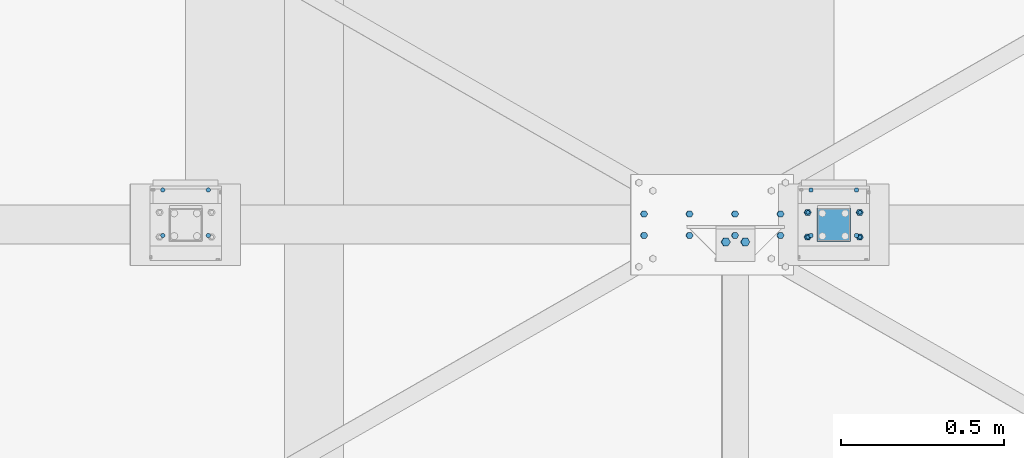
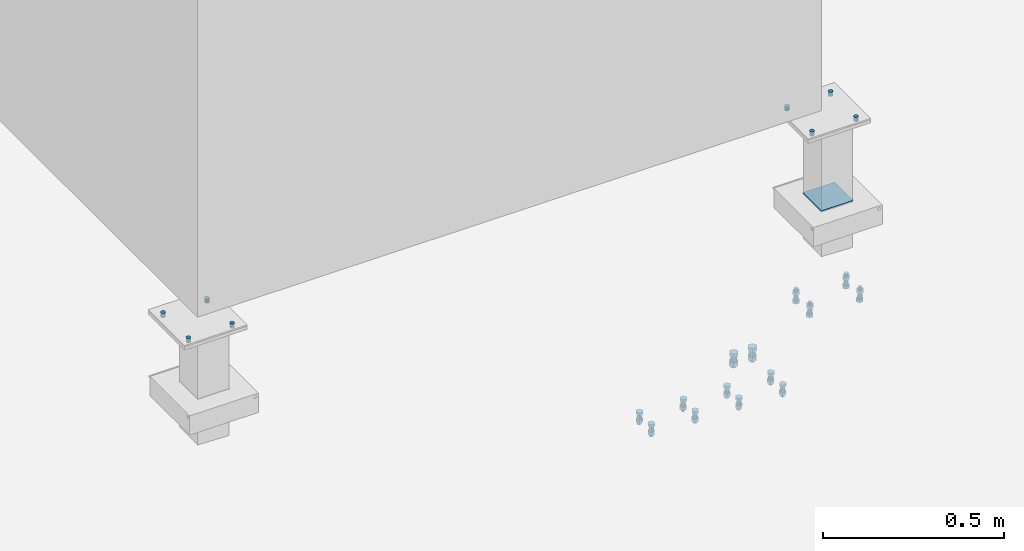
# One storey, part 362 of 3134: 6 mechanical fasteners, 4 elements without a shape of their own.
"""IFC2X3 building model written with IfcOpenShell, lengths in millimetres."""

from ifc_helpers import new_model, si_unit, frame, origin_with_axes, place, context, subcontext, project, spatial, faceted_brep, source, transform, mapped, material, type_object, element, aggregate, save


model = new_model("IFC2X3")

# Units and contexts
model_context = context("Model", 3, precision=1e-05, world=origin_with_axes())
body_context = subcontext(model_context, "Body", "Model", "MODEL_VIEW")
ifc_project = project(units=[si_unit("LENGTHUNIT", "METRE", prefix="MILLI"), si_unit("AREAUNIT", "SQUARE_METRE"), si_unit("VOLUMEUNIT", "CUBIC_METRE"), si_unit("MASSUNIT", "GRAM", prefix="KILO"), si_unit("TIMEUNIT", "SECOND"), si_unit("PLANEANGLEUNIT", "RADIAN"), si_unit("SOLIDANGLEUNIT", "STERADIAN"), si_unit("THERMODYNAMICTEMPERATUREUNIT", "DEGREE_CELSIUS"), si_unit("LUMINOUSINTENSITYUNIT", "LUMEN")], contexts=[model_context])

# Site, building, storey
site_placement = place(None, origin_with_axes())
site = spatial("IfcSite", under=ifc_project, at=site_placement, CompositionType="ELEMENT")
building_placement = place(site_placement, origin_with_axes())
building = spatial("IfcBuilding", under=site, at=building_placement, Name="Undefined", CompositionType="ELEMENT")
storey_placement = place(building_placement, origin_with_axes())
storey = spatial("IfcBuildingStorey", under=building, at=storey_placement, Name="Undefined", CompositionType="ELEMENT", Elevation=0.0)

# Assembly, mechanical fastener
assembly_1_placement = place(storey_placement, origin_with_axes())
assembly_1 = element("IfcElementAssembly", 1, at=assembly_1_placement, inside=storey, AssemblyPlace="NOTDEFINED", PredefinedType="RIGID_FRAME")
ifc_material_1 = material(Name="6.8")
mechanical_fastener_type = type_object("IfcMechanicalFastenerType", Name="Bolt assembly")
shared_shape_1 = source(origin_with_axes(), body_context, "Body", "Brep", [
    faceted_brep([(51.5, 1.36424205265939e-12, 50.0), (51.3858192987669, 1.36424205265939e-12, 50.5740251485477), (51.0606601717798, 1.36424205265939e-12, 51.0606601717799), (50.5740251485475, 1.36424205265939e-12, 51.385819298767), (-50.0000000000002, 1.36424205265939e-12, 51.5), (-50.7500000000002, 1.36424205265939e-12, 51.2990381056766), (-51.2990381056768, 1.36424205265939e-12, 50.7499999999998), (-51.5, 1.36424205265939e-12, 49.9999999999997), (-51.5, 1.36424205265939e-12, -50.0000000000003), (-51.2990381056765, 1.36424205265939e-12, -50.7500000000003), (-50.7499999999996, 1.36424205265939e-12, -51.2990381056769), (-49.9999999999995, 1.36424205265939e-12, -51.5), (50.0000000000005, 1.36424205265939e-12, -51.5), (50.7500000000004, 1.36424205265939e-12, -51.2990381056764), (51.2990381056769, 1.36424205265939e-12, -50.7499999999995), (51.5, 1.36424205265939e-12, -49.9999999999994), (51.5, 5.10000000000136, -49.9999999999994), (51.2990381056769, 5.10000000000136, -50.7499999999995), (50.7500000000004, 5.10000000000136, -51.2990381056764), (50.0000000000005, 5.10000000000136, -51.5), (-49.9999999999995, 5.10000000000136, -51.5), (-50.7499999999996, 5.10000000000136, -51.2990381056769), (-51.2990381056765, 5.10000000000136, -50.7500000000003), (-51.5, 5.10000000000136, -50.0000000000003), (-51.5, 5.10000000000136, 49.9999999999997), (-51.2990381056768, 5.10000000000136, 50.7499999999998), (-50.7500000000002, 5.10000000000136, 51.2990381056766), (-50.0000000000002, 5.10000000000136, 51.5), (50.5740251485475, 5.10000000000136, 51.385819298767), (51.0606601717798, 5.10000000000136, 51.0606601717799), (51.3858192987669, 5.10000000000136, 50.5740251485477), (51.5, 5.10000000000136, 50.0)], [[[0, 1, 2, 3, 4, 5, 6, 7, 8, 9, 10, 11, 12, 13, 14, 15]], [[16, 17, 18, 19, 20, 21, 22, 23, 24, 25, 26, 27, 28, 29, 30, 31]], [[0, 31, 30, 1]], [[1, 30, 29, 2]], [[2, 29, 28, 3]], [[3, 28, 27, 4]], [[4, 27, 26, 5]], [[5, 26, 25, 6]], [[6, 25, 24, 7]], [[7, 24, 23, 8]], [[8, 23, 22, 9]], [[9, 22, 21, 10]], [[10, 21, 20, 11]], [[11, 20, 19, 12]], [[12, 19, 18, 13]], [[13, 18, 17, 14]], [[14, 17, 16, 15]], [[15, 16, 31, 0]]]),
])
mechanical_fastener_1_placement = place(assembly_1_placement, frame((75824.0, 15633.33, 4212.39), z_axis=(0.0, -1.0, 0.0), x_axis=(-1.0, 0.0, 0.0)))
mechanical_fastener_1 = element("IfcMechanicalFastener", 2, at=mechanical_fastener_1_placement, type_object=mechanical_fastener_type, material=ifc_material_1, Name="Bolt assembly", NominalDiameter=10.0, NominalLength=5.0, context=body_context, shape_type="MappedRepresentation", body=[
    mapped(shared_shape_1, transform((0.0, 0.0, 0.0))),
])

assembly_2_placement = place(storey_placement, origin_with_axes())
assembly_2 = element("IfcElementAssembly", 3, at=assembly_2_placement, inside=storey, Name="IPE240", AssemblyPlace="NOTDEFINED", PredefinedType="RIGID_FRAME")
ifc_material_2 = material(Name="8.8")
shared_shape_2 = source(origin_with_axes(), body_context, "Body", "Brep", [
    faceted_brep([(13.856406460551, -15.0007639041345, 0.0), (6.92820323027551, -15.0007639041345, 12.0), (-6.92820323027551, -15.0007639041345, 12.0), (-13.856406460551, -15.0007639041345, 1.69692038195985e-15), (-6.92820323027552, -15.0007639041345, -12.0), (6.9282032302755, -15.0007639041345, -12.0), (6.9282032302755, -5.00076390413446, -12.0), (-6.92820323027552, -5.00076390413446, -12.0), (-13.856406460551, -5.00076390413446, 1.69692038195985e-15), (-6.92820323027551, -5.00076390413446, 12.0), (6.92820323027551, -5.00076390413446, 12.0), (13.856406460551, -5.00076390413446, 0.0), (8.0, -5.00076390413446, 0.0), (6.92820323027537, -5.00076390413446, 4.00000000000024), (3.99999999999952, -5.00076390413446, 6.92820323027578), (-8.29068785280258e-13, -5.00076390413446, 8.0), (-4.00000000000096, -5.00076390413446, 6.92820323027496), (-6.9282032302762, -5.00076390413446, 3.99999999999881), (-8.0, -5.00076390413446, -1.65813757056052e-12), (-6.92820323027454, -5.00076390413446, -4.00000000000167), (-3.99999999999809, -5.00076390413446, -6.92820323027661), (2.47832457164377e-12, -5.00076390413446, -8.0), (4.00000000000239, -5.00076390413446, -6.92820323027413), (6.92820323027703, -5.00076390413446, -3.99999999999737), (6.92820323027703, 34.9991996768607, -3.99999999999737), (4.00000000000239, 34.9991996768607, -6.92820323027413), (2.47832457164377e-12, 34.9991996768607, -8.0), (-3.99999999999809, 34.9991996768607, -6.92820323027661), (-6.92820323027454, 34.9991996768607, -4.00000000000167), (-8.0, 34.9991996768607, -1.65813757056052e-12), (-6.9282032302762, 34.9991996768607, 3.99999999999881), (-4.00000000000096, 34.9991996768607, 6.92820323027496), (-8.29068785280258e-13, 34.9991996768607, 8.0), (3.99999999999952, 34.9991996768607, 6.92820323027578), (6.92820323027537, 34.9991996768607, 4.00000000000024), (8.0, 34.9991996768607, 0.0), (13.856406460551, 14.9999995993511, 0.0), (6.92820323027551, 14.9999995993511, 12.0), (-6.92820323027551, 14.9999995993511, 12.0), (-13.856406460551, 14.9999995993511, 1.69692038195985e-15), (-6.92820323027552, 14.9999995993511, -12.0), (6.9282032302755, 14.9999995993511, -12.0), (6.9282032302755, 27.9999995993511, -12.0), (-6.92820323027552, 27.9999995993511, -12.0), (-13.856406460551, 27.9999995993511, 1.69692038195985e-15), (-6.92820323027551, 27.9999995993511, 12.0), (6.92820323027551, 27.9999995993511, 12.0), (13.856406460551, 27.9999995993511, 0.0)], [[[0, 1, 2, 3, 4, 5]], [[6, 7, 8, 9, 10, 11]], [[0, 11, 10, 1]], [[1, 10, 9, 2]], [[2, 9, 8, 3]], [[3, 8, 7, 4]], [[4, 7, 6, 5]], [[5, 6, 11, 0]], [[12, 13, 14, 15, 16, 17, 18, 19, 20, 21, 22, 23]], [[24, 25, 26, 27, 28, 29, 30, 31, 32, 33, 34, 35]], [[12, 35, 34, 13]], [[13, 34, 33, 14]], [[14, 33, 32, 15]], [[15, 32, 31, 16]], [[16, 31, 30, 17]], [[17, 30, 29, 18]], [[18, 29, 28, 19]], [[19, 28, 27, 20]], [[20, 27, 26, 21]], [[21, 26, 25, 22]], [[22, 25, 24, 23]], [[23, 24, 35, 12]], [[36, 37, 38, 39, 40, 41]], [[42, 43, 44, 45, 46, 47]], [[36, 47, 46, 37]], [[37, 46, 45, 38]], [[38, 45, 44, 39]], [[39, 44, 43, 40]], [[40, 43, 42, 41]], [[41, 42, 47, 36]]]),
    faceted_brep([(9.0, 4.90000583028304, 0.0), (7.79422863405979, 4.90000583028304, 4.50000000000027), (4.49999999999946, 4.90000583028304, 7.79422863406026), (-9.3270238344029e-13, 4.90000583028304, 9.0), (-4.50000000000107, 4.90000583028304, 7.79422863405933), (-7.79422863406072, 4.90000583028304, 4.49999999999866), (-9.0, 4.90000583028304, -1.86540476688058e-12), (-7.79422863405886, 4.90000583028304, -4.50000000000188), (-4.49999999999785, 4.90000583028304, -7.79422863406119), (2.78811514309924e-12, 4.90000583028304, -9.0), (4.50000000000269, 4.90000583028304, -7.7942286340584), (7.79422863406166, 4.90000583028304, -4.49999999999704), (7.79422863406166, 14.9999995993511, -4.49999999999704), (4.50000000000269, 14.9999995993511, -7.7942286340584), (2.78811514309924e-12, 14.9999995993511, -9.0), (-4.49999999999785, 14.9999995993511, -7.79422863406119), (-7.79422863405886, 14.9999995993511, -4.50000000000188), (-9.0, 14.9999995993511, -1.86540476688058e-12), (-7.79422863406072, 14.9999995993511, 4.49999999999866), (-4.50000000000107, 14.9999995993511, 7.79422863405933), (-9.3270238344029e-13, 14.9999995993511, 9.0), (4.49999999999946, 14.9999995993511, 7.79422863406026), (7.79422863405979, 14.9999995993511, 4.50000000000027), (9.0, 14.9999995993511, 0.0), (9.0, -4.90076390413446, 0.0), (7.79422863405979, -4.90076390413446, 4.50000000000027), (4.49999999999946, -4.90076390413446, 7.79422863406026), (-9.3270238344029e-13, -4.90076390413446, 9.0), (-4.50000000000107, -4.90076390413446, 7.79422863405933), (-7.79422863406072, -4.90076390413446, 4.49999999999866), (-9.0, -4.90076390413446, -1.86540476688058e-12), (-7.79422863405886, -4.90076390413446, -4.50000000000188), (-4.49999999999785, -4.90076390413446, -7.79422863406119), (2.78811514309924e-12, -4.90076390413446, -9.0), (4.50000000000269, -4.90076390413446, -7.7942286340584), (7.79422863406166, -4.90076390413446, -4.49999999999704), (7.79422863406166, 5.0992360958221, -4.49999999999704), (4.50000000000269, 5.0992360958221, -7.7942286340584), (2.78811514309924e-12, 5.0992360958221, -9.0), (-4.49999999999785, 5.0992360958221, -7.79422863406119), (-7.79422863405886, 5.0992360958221, -4.50000000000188), (-9.0, 5.0992360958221, -1.86540476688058e-12), (-7.79422863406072, 5.0992360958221, 4.49999999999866), (-4.50000000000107, 5.0992360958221, 7.79422863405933), (-9.3270238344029e-13, 5.0992360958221, 9.0), (4.49999999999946, 5.0992360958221, 7.79422863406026), (7.79422863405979, 5.0992360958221, 4.50000000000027), (9.0, 5.0992360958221, 0.0)], [[[0, 1, 2, 3, 4, 5, 6, 7, 8, 9, 10, 11]], [[12, 13, 14, 15, 16, 17, 18, 19, 20, 21, 22, 23]], [[0, 23, 22, 1]], [[1, 22, 21, 2]], [[2, 21, 20, 3]], [[3, 20, 19, 4]], [[4, 19, 18, 5]], [[5, 18, 17, 6]], [[6, 17, 16, 7]], [[7, 16, 15, 8]], [[8, 15, 14, 9]], [[9, 14, 13, 10]], [[10, 13, 12, 11]], [[11, 12, 23, 0]], [[24, 25, 26, 27, 28, 29, 30, 31, 32, 33, 34, 35]], [[36, 37, 38, 39, 40, 41, 42, 43, 44, 45, 46, 47]], [[24, 47, 46, 25]], [[25, 46, 45, 26]], [[26, 45, 44, 27]], [[27, 44, 43, 28]], [[28, 43, 42, 29]], [[29, 42, 41, 30]], [[30, 41, 40, 31]], [[31, 40, 39, 32]], [[32, 39, 38, 33]], [[33, 38, 37, 34]], [[34, 37, 36, 35]], [[35, 36, 47, 24]]]),
])
mechanical_fastener_2_placement = place(assembly_2_placement, frame((75491.7135017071, 15580.2408128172, 3820.99133895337), z_axis=(1.55835586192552e-05, 0.999999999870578, -3.99949066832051e-06), x_axis=(0.999519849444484, -1.57000007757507e-05, -0.0309850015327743)))
mechanical_fastener_2 = element("IfcMechanicalFastener", 4, at=mechanical_fastener_2_placement, type_object=mechanical_fastener_type, material=ifc_material_2, Name="Bolt assembly", NominalDiameter=16.0, NominalLength=40.0, context=body_context, shape_type="MappedRepresentation", body=[
    mapped(shared_shape_2, transform((0.0, 0.0, 0.0))),
    mapped(shared_shape_2, transform((59.9999999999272, 0.0, 5.40239852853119e-10))),
])

assembly_3_placement = place(storey_placement, origin_with_axes())
assembly_3 = element("IfcElementAssembly", 5, at=assembly_3_placement, inside=storey, AssemblyPlace="NOTDEFINED", PredefinedType="RIGID_FRAME")
shared_shape_3 = source(origin_with_axes(), body_context, "Body", "Brep", [
    faceted_brep([(7.0, -4.90000000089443, 0.0), (6.06217782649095, -4.90000000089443, 3.50000000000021), (3.49999999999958, -4.90000000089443, 6.06217782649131), (-7.25435187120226e-13, -4.90000000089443, 7.0), (-3.50000000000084, -4.90000000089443, 6.06217782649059), (-6.06217782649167, -4.90000000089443, 3.49999999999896), (-7.0, -4.90000000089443, -1.45087037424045e-12), (-6.06217782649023, -4.90000000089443, -3.50000000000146), (-3.49999999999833, -4.90000000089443, -6.06217782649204), (2.1685340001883e-12, -4.90000000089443, -7.0), (3.50000000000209, -4.90000000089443, -6.06217782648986), (6.0621778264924, -4.90000000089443, -3.4999999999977), (6.0621778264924, 0.0999999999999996, -3.4999999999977), (3.50000000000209, 0.0999999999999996, -6.06217782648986), (2.1685340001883e-12, 0.0999999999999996, -7.0), (-3.49999999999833, 0.0999999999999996, -6.06217782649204), (-6.06217782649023, 0.0999999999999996, -3.50000000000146), (-7.0, 0.0999999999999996, -1.45087037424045e-12), (-6.06217782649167, 0.0999999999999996, 3.49999999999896), (-3.50000000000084, 0.0999999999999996, 6.06217782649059), (-7.25435187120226e-13, 0.0999999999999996, 7.0), (3.49999999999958, 0.0999999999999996, 6.06217782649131), (6.06217782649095, 0.0999999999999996, 3.50000000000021), (7.0, 0.0999999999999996, 0.0), (7.0, -0.1, 0.0), (6.06217782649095, -0.1, 3.50000000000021), (3.49999999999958, -0.1, 6.06217782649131), (-7.25435187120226e-13, -0.1, 7.0), (-3.50000000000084, -0.1, 6.06217782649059), (-6.06217782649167, -0.1, 3.49999999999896), (-7.0, -0.1, -1.45087037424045e-12), (-6.06217782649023, -0.1, -3.50000000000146), (-3.49999999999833, -0.1, -6.06217782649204), (2.1685340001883e-12, -0.1, -7.0), (3.50000000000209, -0.1, -6.06217782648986), (6.0621778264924, -0.1, -3.4999999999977), (6.0621778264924, 10.0, -3.4999999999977), (3.50000000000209, 10.0, -6.06217782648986), (2.1685340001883e-12, 10.0, -7.0), (-3.49999999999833, 10.0, -6.06217782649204), (-6.06217782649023, 10.0, -3.50000000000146), (-7.0, 10.0, -1.45087037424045e-12), (-6.06217782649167, 10.0, 3.49999999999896), (-3.50000000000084, 10.0, 6.06217782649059), (-7.25435187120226e-13, 10.0, 7.0), (3.49999999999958, 10.0, 6.06217782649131), (6.06217782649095, 10.0, 3.50000000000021), (7.0, 10.0, 0.0)], [[[0, 1, 2, 3, 4, 5, 6, 7, 8, 9, 10, 11]], [[12, 13, 14, 15, 16, 17, 18, 19, 20, 21, 22, 23]], [[0, 23, 22, 1]], [[1, 22, 21, 2]], [[2, 21, 20, 3]], [[3, 20, 19, 4]], [[4, 19, 18, 5]], [[5, 18, 17, 6]], [[6, 17, 16, 7]], [[7, 16, 15, 8]], [[8, 15, 14, 9]], [[9, 14, 13, 10]], [[10, 13, 12, 11]], [[11, 12, 23, 0]], [[24, 25, 26, 27, 28, 29, 30, 31, 32, 33, 34, 35]], [[36, 37, 38, 39, 40, 41, 42, 43, 44, 45, 46, 47]], [[24, 47, 46, 25]], [[25, 46, 45, 26]], [[26, 45, 44, 27]], [[27, 44, 43, 28]], [[28, 43, 42, 29]], [[29, 42, 41, 30]], [[30, 41, 40, 31]], [[31, 40, 39, 32]], [[32, 39, 38, 33]], [[33, 38, 37, 34]], [[34, 37, 36, 35]], [[35, 36, 47, 24]]]),
])
mechanical_fastener_3_placement = place(assembly_3_placement, frame((73830.0, 15600.17, 4475.0), z_axis=(-1.0, 0.0, 0.0), x_axis=(0.0, 1.0, 0.0)))
mechanical_fastener_3 = element("IfcMechanicalFastener", 6, at=mechanical_fastener_3_placement, type_object=mechanical_fastener_type, material=ifc_material_2, Name="Bolt assembly", NominalDiameter=12.0, NominalLength=15.0, context=body_context, shape_type="MappedRepresentation", body=[
    mapped(shared_shape_3, transform((0.0, 0.0, -70.0))),
    mapped(shared_shape_3, transform((140.0, 0.0, -70.0))),
    mapped(shared_shape_3, transform((0.0, 0.0, 70.0))),
    mapped(shared_shape_3, transform((140.0, 0.0, 70.0))),
])
aggregate(assembly_3, [mechanical_fastener_3])

# Mechanical fastener
mechanical_fastener_4_placement = place(assembly_1_placement, frame((75824.0, 15600.17, 4475.0), z_axis=(-1.0, 0.0, 0.0), x_axis=(0.0, 1.0, 0.0)))
mechanical_fastener_4 = element("IfcMechanicalFastener", 7, at=mechanical_fastener_4_placement, type_object=mechanical_fastener_type, material=ifc_material_2, Name="Bolt assembly", NominalDiameter=12.0, NominalLength=15.0, context=body_context, shape_type="MappedRepresentation", body=[
    mapped(shared_shape_3, transform((0.0, 0.0, -70.0))),
    mapped(shared_shape_3, transform((140.0, 0.0, -70.0))),
    mapped(shared_shape_3, transform((0.0, 0.0, 70.0))),
    mapped(shared_shape_3, transform((140.0, 0.0, 70.0))),
])

aggregate(assembly_1, [mechanical_fastener_1, mechanical_fastener_4])

# Assembly, mechanical fastener
assembly_4_placement = place(storey_placement, origin_with_axes())
assembly_4 = element("IfcElementAssembly", 8, at=assembly_4_placement, inside=storey, AssemblyPlace="NOTDEFINED", PredefinedType="RIGID_FRAME")
shared_shape_4 = source(origin_with_axes(), body_context, "Body", "Brep", [
    faceted_brep([(10.9696551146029, -29.8300001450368, 0.0), (5.48482755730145, -29.8300001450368, 9.5), (-5.48482755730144, -29.8300001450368, 9.5), (-10.9696551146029, -29.8300001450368, 1.34339530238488e-15), (-5.48482755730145, -29.8300001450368, -9.5), (5.48482755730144, -29.8300001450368, -9.50000000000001), (5.48482755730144, -21.8300001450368, -9.50000000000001), (-5.48482755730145, -21.8300001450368, -9.5), (-10.9696551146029, -21.8300001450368, 1.34339530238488e-15), (-5.48482755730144, -21.8300001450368, 9.5), (5.48482755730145, -21.8300001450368, 9.5), (10.9696551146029, -21.8300001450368, 0.0), (6.0, -21.8300001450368, 0.0), (5.19615242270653, -21.8300001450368, 3.00000000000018), (2.99999999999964, -21.8300001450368, 5.19615242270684), (-6.21801588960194e-13, -21.8300001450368, 6.0), (-3.00000000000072, -21.8300001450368, 5.19615242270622), (-5.19615242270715, -21.8300001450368, 2.9999999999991), (-6.0, -21.8300001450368, -1.24360317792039e-12), (-5.19615242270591, -21.8300001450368, -3.00000000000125), (-2.99999999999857, -21.8300001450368, -5.19615242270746), (1.85874342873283e-12, -21.8300001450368, -6.0), (3.00000000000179, -21.8300001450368, -5.1961524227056), (5.19615242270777, -21.8300001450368, -2.99999999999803), (5.19615242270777, 18.1699998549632, -2.99999999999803), (3.00000000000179, 18.1699998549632, -5.1961524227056), (1.85874342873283e-12, 18.1699998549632, -6.0), (-2.99999999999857, 18.1699998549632, -5.19615242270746), (-5.19615242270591, 18.1699998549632, -3.00000000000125), (-6.0, 18.1699998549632, -1.24360317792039e-12), (-5.19615242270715, 18.1699998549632, 2.9999999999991), (-3.00000000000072, 18.1699998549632, 5.19615242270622), (-6.21801588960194e-13, 18.1699998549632, 6.0), (2.99999999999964, 18.1699998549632, 5.19615242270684), (5.19615242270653, 18.1699998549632, 3.00000000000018), (6.0, 18.1699998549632, 0.0), (10.9696551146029, 0.0, 0.0), (5.48482755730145, 0.0, 9.5), (-5.48482755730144, 0.0, 9.5), (-10.9696551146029, 0.0, 1.34339530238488e-15), (-5.48482755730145, 0.0, -9.5), (5.48482755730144, 0.0, -9.50000000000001), (5.48482755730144, 10.0, -9.50000000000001), (-5.48482755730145, 10.0, -9.5), (-10.9696551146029, 10.0, 1.34339530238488e-15), (-5.48482755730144, 10.0, 9.5), (5.48482755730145, 10.0, 9.5), (10.9696551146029, 10.0, 0.0)], [[[0, 1, 2, 3, 4, 5]], [[6, 7, 8, 9, 10, 11]], [[0, 11, 10, 1]], [[1, 10, 9, 2]], [[2, 9, 8, 3]], [[3, 8, 7, 4]], [[4, 7, 6, 5]], [[5, 6, 11, 0]], [[12, 13, 14, 15, 16, 17, 18, 19, 20, 21, 22, 23]], [[24, 25, 26, 27, 28, 29, 30, 31, 32, 33, 34, 35]], [[12, 35, 34, 13]], [[13, 34, 33, 14]], [[14, 33, 32, 15]], [[15, 32, 31, 16]], [[16, 31, 30, 17]], [[17, 30, 29, 18]], [[18, 29, 28, 19]], [[19, 28, 27, 20]], [[20, 27, 26, 21]], [[21, 26, 25, 22]], [[22, 25, 24, 23]], [[23, 24, 35, 12]], [[36, 37, 38, 39, 40, 41]], [[42, 43, 44, 45, 46, 47]], [[36, 47, 46, 37]], [[37, 46, 45, 38]], [[38, 45, 44, 39]], [[39, 44, 43, 40]], [[40, 43, 42, 41]], [[41, 42, 47, 36]]]),
    faceted_brep([(7.0, -10.0999999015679, 0.0), (6.06217782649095, -10.0999999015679, 3.50000000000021), (3.49999999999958, -10.0999999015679, 6.06217782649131), (-7.25435187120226e-13, -10.0999999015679, 7.0), (-3.50000000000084, -10.0999999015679, 6.06217782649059), (-6.06217782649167, -10.0999999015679, 3.49999999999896), (-7.0, -10.0999999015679, -1.45087037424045e-12), (-6.06217782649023, -10.0999999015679, -3.50000000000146), (-3.49999999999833, -10.0999999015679, -6.06217782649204), (2.1685340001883e-12, -10.0999999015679, -7.0), (3.50000000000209, -10.0999999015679, -6.06217782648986), (6.0621778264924, -10.0999999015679, -3.4999999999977), (6.0621778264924, 0.0, -3.4999999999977), (3.50000000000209, 0.0, -6.06217782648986), (2.1685340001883e-12, 0.0, -7.0), (-3.49999999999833, 0.0, -6.06217782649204), (-6.06217782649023, 0.0, -3.50000000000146), (-7.0, 0.0, -1.45087037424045e-12), (-6.06217782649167, 0.0, 3.49999999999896), (-3.50000000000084, 0.0, 6.06217782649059), (-7.25435187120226e-13, 0.0, 7.0), (3.49999999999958, 0.0, 6.06217782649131), (6.06217782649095, 0.0, 3.50000000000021), (7.0, 0.0, 0.0), (7.0, -11.9999999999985, 0.0), (6.06217782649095, -11.9999999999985, 3.50000000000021), (3.49999999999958, -11.9999999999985, 6.06217782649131), (-7.25435187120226e-13, -11.9999999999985, 7.0), (-3.50000000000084, -11.9999999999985, 6.06217782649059), (-6.06217782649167, -11.9999999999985, 3.49999999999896), (-7.0, -11.9999999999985, -1.45087037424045e-12), (-6.06217782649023, -11.9999999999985, -3.50000000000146), (-3.49999999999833, -11.9999999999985, -6.06217782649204), (2.1685340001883e-12, -11.9999999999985, -7.0), (3.50000000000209, -11.9999999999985, -6.06217782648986), (6.0621778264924, -11.9999999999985, -3.4999999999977), (6.0621778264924, -10.0, -3.4999999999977), (3.50000000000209, -10.0, -6.06217782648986), (2.1685340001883e-12, -10.0, -7.0), (-3.49999999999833, -10.0, -6.06217782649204), (-6.06217782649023, -10.0, -3.50000000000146), (-7.0, -10.0, -1.45087037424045e-12), (-6.06217782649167, -10.0, 3.49999999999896), (-3.50000000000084, -10.0, 6.06217782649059), (-7.25435187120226e-13, -10.0, 7.0), (3.49999999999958, -10.0, 6.06217782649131), (6.06217782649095, -10.0, 3.50000000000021), (7.0, -10.0, 0.0), (7.0, -21.7300001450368, 0.0), (6.06217782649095, -21.7300001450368, 3.50000000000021), (3.49999999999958, -21.7300001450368, 6.06217782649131), (-7.25435187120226e-13, -21.7300001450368, 7.0), (-3.50000000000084, -21.7300001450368, 6.06217782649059), (-6.06217782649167, -21.7300001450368, 3.49999999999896), (-7.0, -21.7300001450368, -1.45087037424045e-12), (-6.06217782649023, -21.7300001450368, -3.50000000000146), (-3.49999999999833, -21.7300001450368, -6.06217782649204), (2.1685340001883e-12, -21.7300001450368, -7.0), (3.50000000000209, -21.7300001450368, -6.06217782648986), (6.0621778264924, -21.7300001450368, -3.4999999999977), (6.0621778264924, -11.9299999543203, -3.4999999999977), (3.50000000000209, -11.9299999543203, -6.06217782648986), (2.1685340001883e-12, -11.9299999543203, -7.0), (-3.49999999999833, -11.9299999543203, -6.06217782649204), (-6.06217782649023, -11.9299999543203, -3.50000000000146), (-7.0, -11.9299999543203, -1.45087037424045e-12), (-6.06217782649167, -11.9299999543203, 3.49999999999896), (-3.50000000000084, -11.9299999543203, 6.06217782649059), (-7.25435187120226e-13, -11.9299999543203, 7.0), (3.49999999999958, -11.9299999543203, 6.06217782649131), (6.06217782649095, -11.9299999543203, 3.50000000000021), (7.0, -11.9299999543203, 0.0)], [[[0, 1, 2, 3, 4, 5, 6, 7, 8, 9, 10, 11]], [[12, 13, 14, 15, 16, 17, 18, 19, 20, 21, 22, 23]], [[0, 23, 22, 1]], [[1, 22, 21, 2]], [[2, 21, 20, 3]], [[3, 20, 19, 4]], [[4, 19, 18, 5]], [[5, 18, 17, 6]], [[6, 17, 16, 7]], [[7, 16, 15, 8]], [[8, 15, 14, 9]], [[9, 14, 13, 10]], [[10, 13, 12, 11]], [[11, 12, 23, 0]], [[24, 25, 26, 27, 28, 29, 30, 31, 32, 33, 34, 35]], [[36, 37, 38, 39, 40, 41, 42, 43, 44, 45, 46, 47]], [[24, 47, 46, 25]], [[25, 46, 45, 26]], [[26, 45, 44, 27]], [[27, 44, 43, 28]], [[28, 43, 42, 29]], [[29, 42, 41, 30]], [[30, 41, 40, 31]], [[31, 40, 39, 32]], [[32, 39, 38, 33]], [[33, 38, 37, 34]], [[34, 37, 36, 35]], [[35, 36, 47, 24]], [[48, 49, 50, 51, 52, 53, 54, 55, 56, 57, 58, 59]], [[60, 61, 62, 63, 64, 65, 66, 67, 68, 69, 70, 71]], [[48, 71, 70, 49]], [[49, 70, 69, 50]], [[50, 69, 68, 51]], [[51, 68, 67, 52]], [[52, 67, 66, 53]], [[53, 66, 65, 54]], [[54, 65, 64, 55]], [[55, 64, 63, 56]], [[56, 63, 62, 57]], [[57, 62, 61, 58]], [[58, 61, 60, 59]], [[59, 60, 71, 48]]]),
])
mechanical_fastener_5_placement = place(assembly_4_placement, frame((75744.0414547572, 15633.33, 3890.23554817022), z_axis=(0.0, -1.0, 0.0), x_axis=(0.999519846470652, 0.0, -0.0309851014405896)))
mechanical_fastener_5 = element("IfcMechanicalFastener", 9, at=mechanical_fastener_5_placement, type_object=mechanical_fastener_type, material=ifc_material_2, Name="Bolt assembly", NominalDiameter=12.0, NominalLength=40.0, context=body_context, shape_type="MappedRepresentation", body=[
    mapped(shared_shape_4, transform((0.0, 0.0, -38.0))),
    mapped(shared_shape_4, transform((159.99999999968, -2.71938915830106e-10, -38.0))),
    mapped(shared_shape_4, transform((0.0, 0.0, 38.0))),
    mapped(shared_shape_4, transform((159.99999999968, -2.71938915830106e-10, 38.0))),
])
aggregate(assembly_4, [mechanical_fastener_5])

# Mechanical fastener
shared_shape_5 = source(origin_with_axes(), body_context, "Body", "Brep", [
    faceted_brep([(10.9696551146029, -17.8000021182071, 0.0), (5.48482755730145, -17.8000021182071, 9.5), (-5.48482755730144, -17.8000021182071, 9.5), (-10.9696551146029, -17.8000021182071, 1.34339530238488e-15), (-5.48482755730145, -17.8000021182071, -9.5), (5.48482755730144, -17.8000021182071, -9.50000000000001), (5.48482755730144, -9.80000211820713, -9.50000000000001), (-5.48482755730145, -9.80000211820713, -9.5), (-10.9696551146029, -9.80000211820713, 1.34339530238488e-15), (-5.48482755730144, -9.80000211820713, 9.5), (5.48482755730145, -9.80000211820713, 9.5), (10.9696551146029, -9.80000211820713, 0.0), (6.0, -9.80000211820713, 0.0), (5.19615242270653, -9.80000211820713, 3.00000000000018), (2.99999999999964, -9.80000211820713, 5.19615242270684), (-6.21801588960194e-13, -9.80000211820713, 6.0), (-3.00000000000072, -9.80000211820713, 5.19615242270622), (-5.19615242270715, -9.80000211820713, 2.9999999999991), (-6.0, -9.80000211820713, -1.24360317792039e-12), (-5.19615242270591, -9.80000211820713, -3.00000000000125), (-2.99999999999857, -9.80000211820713, -5.19615242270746), (1.85874342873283e-12, -9.80000211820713, -6.0), (3.00000000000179, -9.80000211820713, -5.1961524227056), (5.19615242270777, -9.80000211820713, -2.99999999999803), (5.19615242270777, 25.1999978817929, -2.99999999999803), (3.00000000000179, 25.1999978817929, -5.1961524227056), (1.85874342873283e-12, 25.1999978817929, -6.0), (-2.99999999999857, 25.1999978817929, -5.19615242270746), (-5.19615242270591, 25.1999978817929, -3.00000000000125), (-6.0, 25.1999978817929, -1.24360317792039e-12), (-5.19615242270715, 25.1999978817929, 2.9999999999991), (-3.00000000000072, 25.1999978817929, 5.19615242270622), (-6.21801588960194e-13, 25.1999978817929, 6.0), (2.99999999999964, 25.1999978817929, 5.19615242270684), (5.19615242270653, 25.1999978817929, 3.00000000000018), (6.0, 25.1999978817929, 0.0), (10.9696551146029, 8.0, 0.0), (5.48482755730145, 8.0, 9.5), (-5.48482755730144, 8.0, 9.5), (-10.9696551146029, 8.0, 1.34339530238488e-15), (-5.48482755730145, 8.0, -9.5), (5.48482755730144, 8.0, -9.50000000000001), (5.48482755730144, 18.0, -9.50000000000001), (-5.48482755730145, 18.0, -9.5), (-10.9696551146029, 18.0, 1.34339530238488e-15), (-5.48482755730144, 18.0, 9.5), (5.48482755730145, 18.0, 9.5), (10.9696551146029, 18.0, 0.0)], [[[0, 1, 2, 3, 4, 5]], [[6, 7, 8, 9, 10, 11]], [[0, 11, 10, 1]], [[1, 10, 9, 2]], [[2, 9, 8, 3]], [[3, 8, 7, 4]], [[4, 7, 6, 5]], [[5, 6, 11, 0]], [[12, 13, 14, 15, 16, 17, 18, 19, 20, 21, 22, 23]], [[24, 25, 26, 27, 28, 29, 30, 31, 32, 33, 34, 35]], [[12, 35, 34, 13]], [[13, 34, 33, 14]], [[14, 33, 32, 15]], [[15, 32, 31, 16]], [[16, 31, 30, 17]], [[17, 30, 29, 18]], [[18, 29, 28, 19]], [[19, 28, 27, 20]], [[20, 27, 26, 21]], [[21, 26, 25, 22]], [[22, 25, 24, 23]], [[23, 24, 35, 12]], [[36, 37, 38, 39, 40, 41]], [[42, 43, 44, 45, 46, 47]], [[36, 47, 46, 37]], [[37, 46, 45, 38]], [[38, 45, 44, 39]], [[39, 44, 43, 40]], [[40, 43, 42, 41]], [[41, 42, 47, 36]]]),
    faceted_brep([(7.0, -0.1, 0.0), (6.06217782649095, -0.1, 3.50000000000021), (3.49999999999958, -0.1, 6.06217782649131), (-7.25435187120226e-13, -0.1, 7.0), (-3.50000000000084, -0.1, 6.06217782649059), (-6.06217782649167, -0.1, 3.49999999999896), (-7.0, -0.1, -1.45087037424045e-12), (-6.06217782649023, -0.1, -3.50000000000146), (-3.49999999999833, -0.1, -6.06217782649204), (2.1685340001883e-12, -0.1, -7.0), (3.50000000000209, -0.1, -6.06217782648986), (6.0621778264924, -0.1, -3.4999999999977), (6.0621778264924, 8.0000000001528, -3.4999999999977), (3.50000000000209, 8.0000000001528, -6.06217782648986), (2.1685340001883e-12, 8.0000000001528, -7.0), (-3.49999999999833, 8.0000000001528, -6.06217782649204), (-6.06217782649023, 8.0000000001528, -3.50000000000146), (-7.0, 8.0000000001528, -1.45087037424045e-12), (-6.06217782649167, 8.0000000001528, 3.49999999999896), (-3.50000000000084, 8.0000000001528, 6.06217782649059), (-7.25435187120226e-13, 8.0000000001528, 7.0), (3.49999999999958, 8.0000000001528, 6.06217782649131), (6.06217782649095, 8.0000000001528, 3.50000000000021), (7.0, 8.0000000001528, 0.0), (7.0, -9.70000211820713, 0.0), (6.06217782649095, -9.70000211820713, 3.50000000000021), (3.49999999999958, -9.70000211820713, 6.06217782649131), (-7.25435187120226e-13, -9.70000211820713, 7.0), (-3.50000000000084, -9.70000211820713, 6.06217782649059), (-6.06217782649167, -9.70000211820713, 3.49999999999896), (-7.0, -9.70000211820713, -1.45087037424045e-12), (-6.06217782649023, -9.70000211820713, -3.50000000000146), (-3.49999999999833, -9.70000211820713, -6.06217782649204), (2.1685340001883e-12, -9.70000211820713, -7.0), (3.50000000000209, -9.70000211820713, -6.06217782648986), (6.0621778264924, -9.70000211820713, -3.4999999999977), (6.0621778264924, 0.0999999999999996, -3.4999999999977), (3.50000000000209, 0.0999999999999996, -6.06217782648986), (2.1685340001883e-12, 0.0999999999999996, -7.0), (-3.49999999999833, 0.0999999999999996, -6.06217782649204), (-6.06217782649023, 0.0999999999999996, -3.50000000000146), (-7.0, 0.0999999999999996, -1.45087037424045e-12), (-6.06217782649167, 0.0999999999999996, 3.49999999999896), (-3.50000000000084, 0.0999999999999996, 6.06217782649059), (-7.25435187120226e-13, 0.0999999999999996, 7.0), (3.49999999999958, 0.0999999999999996, 6.06217782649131), (6.06217782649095, 0.0999999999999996, 3.50000000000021), (7.0, 0.0999999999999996, 0.0)], [[[0, 1, 2, 3, 4, 5, 6, 7, 8, 9, 10, 11]], [[12, 13, 14, 15, 16, 17, 18, 19, 20, 21, 22, 23]], [[0, 23, 22, 1]], [[1, 22, 21, 2]], [[2, 21, 20, 3]], [[3, 20, 19, 4]], [[4, 19, 18, 5]], [[5, 18, 17, 6]], [[6, 17, 16, 7]], [[7, 16, 15, 8]], [[8, 15, 14, 9]], [[9, 14, 13, 10]], [[10, 13, 12, 11]], [[11, 12, 23, 0]], [[24, 25, 26, 27, 28, 29, 30, 31, 32, 33, 34, 35]], [[36, 37, 38, 39, 40, 41, 42, 43, 44, 45, 46, 47]], [[24, 47, 46, 25]], [[25, 46, 45, 26]], [[26, 45, 44, 27]], [[27, 44, 43, 28]], [[28, 43, 42, 29]], [[29, 42, 41, 30]], [[30, 41, 40, 31]], [[31, 40, 39, 32]], [[32, 39, 38, 33]], [[33, 38, 37, 34]], [[34, 37, 36, 35]], [[35, 36, 47, 24]]]),
])
mechanical_fastener_6_placement = place(assembly_2_placement, frame((75659.9727494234, 15633.3274358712, 3640.69060574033), z_axis=(-5.10000051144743e-06, -0.999999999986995, 0.0), x_axis=(-0.999519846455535, 5.50000025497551e-06, 0.0309851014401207)))
mechanical_fastener_6 = element("IfcMechanicalFastener", 10, at=mechanical_fastener_6_placement, type_object=mechanical_fastener_type, material=ifc_material_2, Name="Bolt assembly", NominalDiameter=12.0, NominalLength=35.0, context=body_context, shape_type="MappedRepresentation", body=[
    mapped(shared_shape_5, transform((0.0, 0.0, -33.0))),
    mapped(shared_shape_5, transform((140.000000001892, -1.64072844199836e-09, -32.9999999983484))),
    mapped(shared_shape_5, transform((280.000000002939, -3.56703822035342e-09, -32.9999999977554))),
    mapped(shared_shape_5, transform((420.000000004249, -5.35692379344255e-09, -32.9999999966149))),
    mapped(shared_shape_5, transform((0.0, 0.0, 33.0))),
    mapped(shared_shape_5, transform((140.000000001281, -1.73167791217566e-09, 33.0000000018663))),
    mapped(shared_shape_5, transform((280.000000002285, -3.59614205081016e-09, 33.0000000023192))),
    mapped(shared_shape_5, transform((420.000000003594, -5.38784661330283e-09, 33.0000000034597))),
])

aggregate(assembly_2, [mechanical_fastener_2, mechanical_fastener_6])

save(model, "model.ifc")
